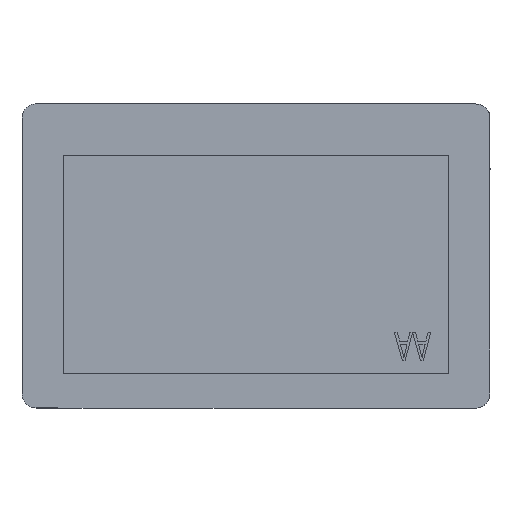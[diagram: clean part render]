
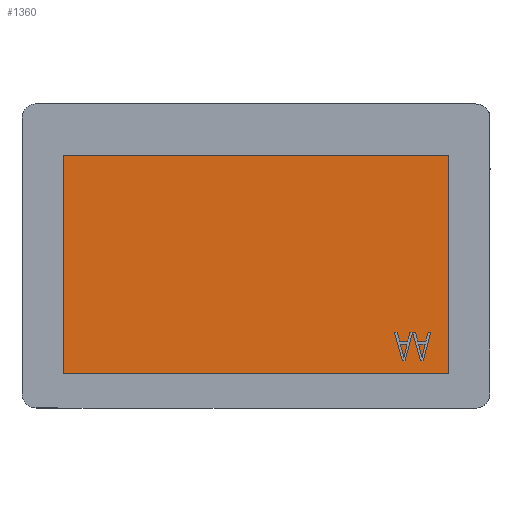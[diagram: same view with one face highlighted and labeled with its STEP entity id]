
A CAD part, top view. The second image highlights one B-rep face of the part: STEP entity #1360.
In plain terms, the highlighted planar face has unit normal (0, 0, 1).
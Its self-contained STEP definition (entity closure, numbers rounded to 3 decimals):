
#1360=ADVANCED_FACE('',(#1665),#1514,.T.);
#1514=PLANE('',#3813);
#1665=FACE_OUTER_BOUND('',#1819,.T.);
#1819=EDGE_LOOP('',(#2019,#2020,#2021,#2022));
#2019=ORIENTED_EDGE('',*,*,#2867,.T.);
#2020=ORIENTED_EDGE('',*,*,#2871,.T.);
#2021=ORIENTED_EDGE('',*,*,#2874,.T.);
#2022=ORIENTED_EDGE('',*,*,#2876,.T.);
#2641=VERTEX_POINT('',#4636);
#2642=VERTEX_POINT('',#4638);
#2644=VERTEX_POINT('',#4644);
#2646=VERTEX_POINT('',#4650);
#2867=EDGE_CURVE('',#2642,#2641,#3193,.T.);
#2871=EDGE_CURVE('',#2641,#2644,#3197,.T.);
#2874=EDGE_CURVE('',#2644,#2646,#3200,.T.);
#2876=EDGE_CURVE('',#2646,#2642,#3202,.T.);
#3193=LINE('',#4637,#3501);
#3197=LINE('',#4645,#3505);
#3200=LINE('',#4651,#3508);
#3202=LINE('',#4654,#3510);
#3501=VECTOR('',#4000,1.);
#3505=VECTOR('',#4006,1.);
#3508=VECTOR('',#4011,1.);
#3510=VECTOR('',#4015,1.);
#3813=AXIS2_PLACEMENT_3D('',#4656,#4018,#4019);
#4000=DIRECTION('',(0.,-1.,0.));
#4006=DIRECTION('',(1.,0.,0.));
#4011=DIRECTION('',(0.,1.,0.));
#4015=DIRECTION('',(-1.,0.,0.));
#4018=DIRECTION('',(0.,0.,1.));
#4019=DIRECTION('',(1.,0.,0.));
#4636=CARTESIAN_POINT('',(-35.22,-27.7,6.3));
#4637=CARTESIAN_POINT('',(-35.22,26.16,6.3));
#4638=CARTESIAN_POINT('',(-35.22,26.16,6.3));
#4644=CARTESIAN_POINT('',(59.82,-27.7,6.3));
#4645=CARTESIAN_POINT('',(-35.22,-27.7,6.3));
#4650=CARTESIAN_POINT('',(59.82,26.16,6.3));
#4651=CARTESIAN_POINT('',(59.82,-27.7,6.3));
#4654=CARTESIAN_POINT('',(59.82,26.16,6.3));
#4656=CARTESIAN_POINT('',(0.26,0.37,6.3));
